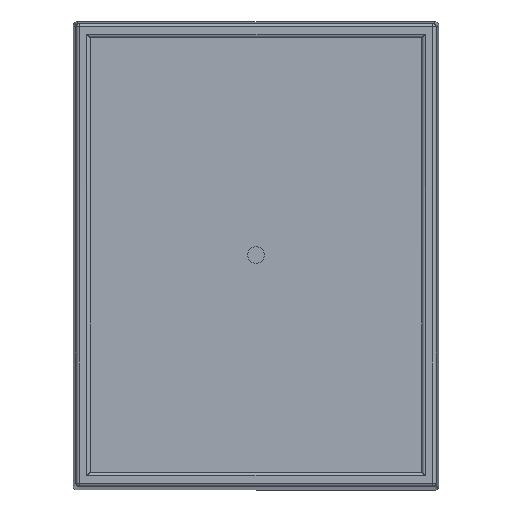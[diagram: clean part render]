
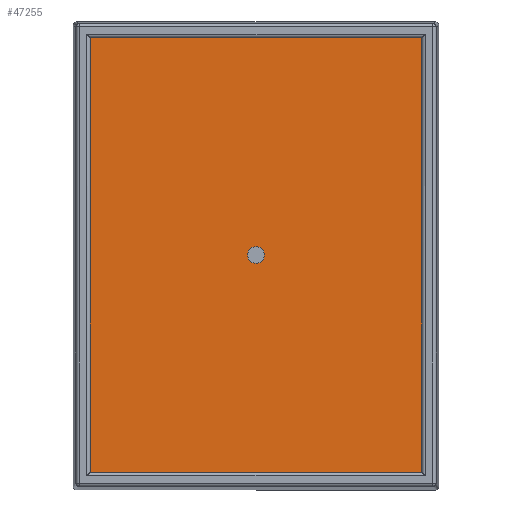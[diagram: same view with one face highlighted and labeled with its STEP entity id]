
A CAD part, top view. The second image highlights one B-rep face of the part: STEP entity #47255.
In plain terms, the highlighted planar face has unit normal (0, 0, 1).
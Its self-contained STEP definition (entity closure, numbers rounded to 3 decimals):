
#4102 = CARTESIAN_POINT ( 'NONE',  ( 1., 26.8, 35.8 ) ) ;
#4163 = CARTESIAN_POINT ( 'NONE',  ( 0., 0., 35.8 ) ) ;
#4367 = ORIENTED_EDGE ( 'NONE', *, *, #45620, .F. ) ;
#5665 = DIRECTION ( 'NONE',  ( 0., 0., 1. ) ) ;
#5893 = CARTESIAN_POINT ( 'NONE',  ( 1., 26.8, 35.8 ) ) ;
#6185 = VERTEX_POINT ( 'NONE', #5893 ) ;
#7049 = DIRECTION ( 'NONE',  ( 1., 0., 0. ) ) ;
#9671 = PLANE ( 'NONE',  #45617 ) ;
#10984 = LINE ( 'NONE', #39663, #67130 ) ;
#11184 = ORIENTED_EDGE ( 'NONE', *, *, #48786, .T. ) ;
#14481 = DIRECTION ( 'NONE',  ( 0., 1., 0. ) ) ;
#15032 = CARTESIAN_POINT ( 'NONE',  ( 10.85, 13.9, 35.8 ) ) ;
#15046 = DIRECTION ( 'NONE',  ( 0., -1., 0. ) ) ;
#15111 = DIRECTION ( 'NONE',  ( 1., 0., 0. ) ) ;
#16150 = CARTESIAN_POINT ( 'NONE',  ( 1., 26.8, 35.8 ) ) ;
#19443 = VERTEX_POINT ( 'NONE', #20039 ) ;
#20039 = CARTESIAN_POINT ( 'NONE',  ( 20.7, 1., 35.8 ) ) ;
#20503 = DIRECTION ( 'NONE',  ( 1., 0., 0. ) ) ;
#21028 = EDGE_CURVE ( 'NONE', #6185, #49014, #58423, .T. ) ;
#21800 = EDGE_CURVE ( 'NONE', #43974, #66262, #70299, .T. ) ;
#24279 = LINE ( 'NONE', #16150, #53213 ) ;
#26450 = CARTESIAN_POINT ( 'NONE',  ( 11.35, 13.9, 35.8 ) ) ;
#31268 = EDGE_CURVE ( 'NONE', #49014, #19443, #10984, .T. ) ;
#31815 = FACE_OUTER_BOUND ( 'NONE', #66793, .T. ) ;
#35494 = AXIS2_PLACEMENT_3D ( 'NONE', #15032, #53106, #20503 ) ;
#38279 = CARTESIAN_POINT ( 'NONE',  ( 10.85, 13.9, 35.8 ) ) ;
#39663 = CARTESIAN_POINT ( 'NONE',  ( 1., 1., 35.8 ) ) ;
#40656 = ORIENTED_EDGE ( 'NONE', *, *, #31268, .T. ) ;
#40730 = EDGE_CURVE ( 'NONE', #45144, #6185, #24279, .T. ) ;
#40951 = LINE ( 'NONE', #68986, #68166 ) ;
#42459 = CIRCLE ( 'NONE', #35494, 0.5 ) ;
#43447 = CARTESIAN_POINT ( 'NONE',  ( 20.7, 26.8, 35.8 ) ) ;
#43794 = DIRECTION ( 'NONE',  ( 1., 0., 0. ) ) ;
#43974 = VERTEX_POINT ( 'NONE', #26450 ) ;
#44046 = VECTOR ( 'NONE', #15046, 1000. ) ;
#45144 = VERTEX_POINT ( 'NONE', #43447 ) ;
#45617 = AXIS2_PLACEMENT_3D ( 'NONE', #4163, #58366, #15111 ) ;
#45620 = EDGE_CURVE ( 'NONE', #66262, #43974, #42459, .T. ) ;
#47255 = ADVANCED_FACE ( 'NONE', ( #49705, #31815 ), #9671, .T. ) ;
#48786 = EDGE_CURVE ( 'NONE', #19443, #45144, #40951, .T. ) ;
#49014 = VERTEX_POINT ( 'NONE', #65412 ) ;
#49705 = FACE_BOUND ( 'NONE', #60405, .T. ) ;
#53106 = DIRECTION ( 'NONE',  ( 0., 0., 1. ) ) ;
#53213 = VECTOR ( 'NONE', #54201, 1000. ) ;
#54201 = DIRECTION ( 'NONE',  ( -1., 0., 0. ) ) ;
#57514 = ORIENTED_EDGE ( 'NONE', *, *, #40730, .T. ) ;
#58366 = DIRECTION ( 'NONE',  ( 0., 0., 1. ) ) ;
#58423 = LINE ( 'NONE', #4102, #44046 ) ;
#60405 = EDGE_LOOP ( 'NONE', ( #65832, #4367 ) ) ;
#64988 = AXIS2_PLACEMENT_3D ( 'NONE', #38279, #5665, #43794 ) ;
#65412 = CARTESIAN_POINT ( 'NONE',  ( 1., 1., 35.8 ) ) ;
#65832 = ORIENTED_EDGE ( 'NONE', *, *, #21800, .F. ) ;
#66262 = VERTEX_POINT ( 'NONE', #69846 ) ;
#66793 = EDGE_LOOP ( 'NONE', ( #67102, #40656, #11184, #57514 ) ) ;
#67102 = ORIENTED_EDGE ( 'NONE', *, *, #21028, .T. ) ;
#67130 = VECTOR ( 'NONE', #7049, 1000. ) ;
#68166 = VECTOR ( 'NONE', #14481, 1000. ) ;
#68986 = CARTESIAN_POINT ( 'NONE',  ( 20.7, 26.8, 35.8 ) ) ;
#69846 = CARTESIAN_POINT ( 'NONE',  ( 10.35, 13.9, 35.8 ) ) ;
#70299 = CIRCLE ( 'NONE', #64988, 0.5 ) ;
